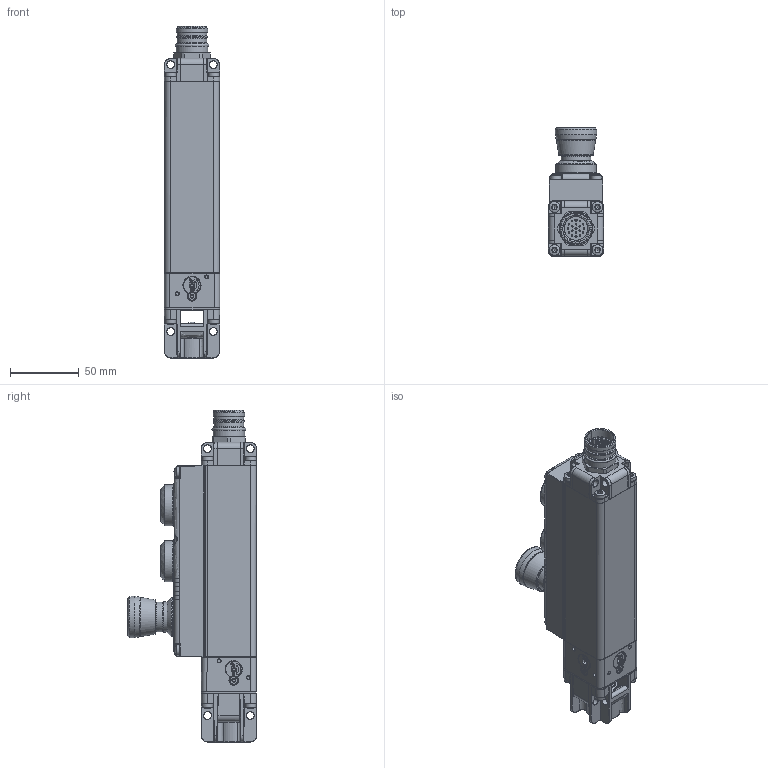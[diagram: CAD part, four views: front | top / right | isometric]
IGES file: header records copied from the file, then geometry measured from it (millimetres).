
Global section: file name: 2036727_A_PSENmg1-A-xxxxx-Fxxx-Ux; native system: Autodesk Inventor 2024; preprocessor: unknown; author: rvet; date: 20240705.143520; units: millimetre
Bounding box: 40 x 93.5 x 240.7 mm (x, y, z)
Volume: 446903.1 mm3; surface area: 65381.1 mm2
Topology: 1 solids, 1 shells, 1948 faces, 5055 edges, 3136 vertices
Faces by surface type: bspline 1948
